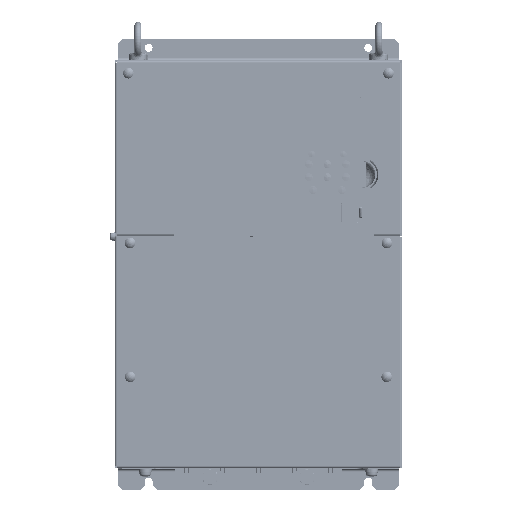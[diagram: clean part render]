
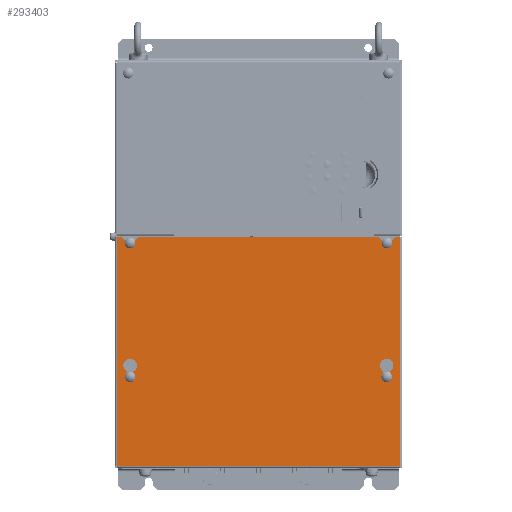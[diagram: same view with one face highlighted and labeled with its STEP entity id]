
A CAD part, top view. The second image highlights one B-rep face of the part: STEP entity #293403.
In plain terms, the highlighted planar face has unit normal (0, 0, 1) as drawn and (0, 1, 0) by its records, which use the part's own axes.
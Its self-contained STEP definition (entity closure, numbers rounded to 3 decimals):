
#292496=CARTESIAN_POINT('',(113.9,0.,-79.5));
#292497=DIRECTION('',(0.,1.,0.));
#292498=DIRECTION('',(-1.,0.,0.));
#292499=AXIS2_PLACEMENT_3D('',#292496,#292497,#292498);
#292501=DIRECTION('',(0.,0.,1.));
#292502=VECTOR('',#292501,4.804);
#292503=CARTESIAN_POINT('',(116.9,0.,-84.304));
#292504=LINE('',#292503,#292502);
#292505=CARTESIAN_POINT('',(113.9,0.,-89.5));
#292506=DIRECTION('',(0.,1.,0.));
#292507=DIRECTION('',(0.5,0.,0.866));
#292508=AXIS2_PLACEMENT_3D('',#292505,#292506,#292507);
#292510=DIRECTION('',(0.,0.,-1.));
#292511=VECTOR('',#292510,4.804);
#292512=CARTESIAN_POINT('',(110.9,0.,-79.5));
#292513=LINE('',#292512,#292511);
#292514=CARTESIAN_POINT('',(-113.9,0.,-79.5));
#292515=DIRECTION('',(0.,1.,0.));
#292516=DIRECTION('',(-1.,0.,0.));
#292517=AXIS2_PLACEMENT_3D('',#292514,#292515,#292516);
#292519=DIRECTION('',(0.,0.,1.));
#292520=VECTOR('',#292519,4.804);
#292521=CARTESIAN_POINT('',(-110.9,0.,-84.304));
#292522=LINE('',#292521,#292520);
#292523=CARTESIAN_POINT('',(-113.9,0.,-89.5));
#292524=DIRECTION('',(0.,1.,0.));
#292525=DIRECTION('',(0.5,0.,0.866));
#292526=AXIS2_PLACEMENT_3D('',#292523,#292524,#292525);
#292528=DIRECTION('',(0.,0.,-1.));
#292529=VECTOR('',#292528,4.804);
#292530=CARTESIAN_POINT('',(-116.9,0.,-79.5));
#292531=LINE('',#292530,#292529);
#292532=DIRECTION('',(-0.707,0.,-0.707));
#292533=VECTOR('',#292532,5.657);
#292534=CARTESIAN_POINT('',(111.,0.,-199.4));
#292535=LINE('',#292534,#292533);
#292536=DIRECTION('',(0.,0.,1.));
#292537=VECTOR('',#292536,1.1);
#292538=CARTESIAN_POINT('',(111.,0.,-199.4));
#292539=LINE('',#292538,#292537);
#292540=CARTESIAN_POINT('',(114.,0.,-198.3));
#292541=DIRECTION('',(0.,1.,0.));
#292542=DIRECTION('',(-1.,0.,0.));
#292543=AXIS2_PLACEMENT_3D('',#292540,#292541,#292542);
#292545=DIRECTION('',(0.,0.,1.));
#292546=VECTOR('',#292545,1.1);
#292547=CARTESIAN_POINT('',(117.,0.,-199.4));
#292548=LINE('',#292547,#292546);
#292549=DIRECTION('',(-0.707,0.,0.707));
#292550=VECTOR('',#292549,5.657);
#292551=CARTESIAN_POINT('',(121.,0.,-203.4));
#292552=LINE('',#292551,#292550);
#292553=DIRECTION('',(-1.,0.,0.));
#292554=VECTOR('',#292553,4.5);
#292555=CARTESIAN_POINT('',(125.5,0.,-203.4));
#292556=LINE('',#292555,#292554);
#292557=DIRECTION('',(-1.,0.,0.));
#292558=VECTOR('',#292557,4.5);
#292559=CARTESIAN_POINT('',(-121.,0.,-203.4));
#292560=LINE('',#292559,#292558);
#292561=DIRECTION('',(-0.707,0.,-0.707));
#292562=VECTOR('',#292561,5.657);
#292563=CARTESIAN_POINT('',(-117.,0.,-199.4));
#292564=LINE('',#292563,#292562);
#292565=DIRECTION('',(0.,0.,1.));
#292566=VECTOR('',#292565,1.1);
#292567=CARTESIAN_POINT('',(-117.,0.,-199.4));
#292568=LINE('',#292567,#292566);
#292569=CARTESIAN_POINT('',(-114.,0.,-198.3));
#292570=DIRECTION('',(0.,1.,0.));
#292571=DIRECTION('',(-1.,0.,0.));
#292572=AXIS2_PLACEMENT_3D('',#292569,#292570,#292571);
#292574=DIRECTION('',(0.,0.,1.));
#292575=VECTOR('',#292574,1.1);
#292576=CARTESIAN_POINT('',(-111.,0.,-199.4));
#292577=LINE('',#292576,#292575);
#292578=DIRECTION('',(-0.707,0.,0.707));
#292579=VECTOR('',#292578,5.657);
#292580=CARTESIAN_POINT('',(-107.,0.,-203.4));
#292581=LINE('',#292580,#292579);
#292582=DIRECTION('',(-1.,0.,0.));
#292583=VECTOR('',#292582,214.);
#292584=CARTESIAN_POINT('',(107.,0.,-203.4));
#292585=LINE('',#292584,#292583);
#293025=DIRECTION('',(0.,0.,1.));
#293026=VECTOR('',#293025,202.9);
#293027=CARTESIAN_POINT('',(-125.5,0.,-203.4));
#293028=LINE('',#293027,#293026);
#293076=DIRECTION('',(1.,0.,0.));
#293077=VECTOR('',#293076,251.);
#293078=CARTESIAN_POINT('',(-125.5,0.,-0.5));
#293079=LINE('',#293078,#293077);
#293118=DIRECTION('',(0.,0.,-1.));
#293119=VECTOR('',#293118,202.9);
#293120=CARTESIAN_POINT('',(125.5,0.,-0.5));
#293121=LINE('',#293120,#293119);
#293172=CARTESIAN_POINT('',(110.9,0.,-79.5));
#293173=CARTESIAN_POINT('',(116.9,0.,-79.5));
#293174=VERTEX_POINT('',#293172);
#293175=VERTEX_POINT('',#293173);
#293176=CARTESIAN_POINT('',(110.9,0.,-84.304));
#293177=VERTEX_POINT('',#293176);
#293178=CARTESIAN_POINT('',(116.9,0.,-84.304));
#293179=VERTEX_POINT('',#293178);
#293180=CARTESIAN_POINT('',(-116.9,0.,-79.5));
#293181=CARTESIAN_POINT('',(-110.9,0.,-79.5));
#293182=VERTEX_POINT('',#293180);
#293183=VERTEX_POINT('',#293181);
#293184=CARTESIAN_POINT('',(-116.9,0.,-84.304));
#293185=VERTEX_POINT('',#293184);
#293186=CARTESIAN_POINT('',(-110.9,0.,-84.304));
#293187=VERTEX_POINT('',#293186);
#293204=CARTESIAN_POINT('',(111.,0.,-198.3));
#293205=CARTESIAN_POINT('',(117.,0.,-198.3));
#293206=VERTEX_POINT('',#293204);
#293207=VERTEX_POINT('',#293205);
#293208=CARTESIAN_POINT('',(-117.,0.,-198.3));
#293209=CARTESIAN_POINT('',(-111.,0.,-198.3));
#293210=VERTEX_POINT('',#293208);
#293211=VERTEX_POINT('',#293209);
#293220=CARTESIAN_POINT('',(111.,0.,-199.4));
#293221=CARTESIAN_POINT('',(107.,0.,-203.4));
#293222=VERTEX_POINT('',#293220);
#293223=VERTEX_POINT('',#293221);
#293228=CARTESIAN_POINT('',(121.,0.,-203.4));
#293229=CARTESIAN_POINT('',(117.,0.,-199.4));
#293230=VERTEX_POINT('',#293228);
#293231=VERTEX_POINT('',#293229);
#293236=CARTESIAN_POINT('',(-107.,0.,-203.4));
#293237=CARTESIAN_POINT('',(-111.,0.,-199.4));
#293238=VERTEX_POINT('',#293236);
#293239=VERTEX_POINT('',#293237);
#293244=CARTESIAN_POINT('',(-117.,0.,-199.4));
#293245=CARTESIAN_POINT('',(-121.,0.,-203.4));
#293246=VERTEX_POINT('',#293244);
#293247=VERTEX_POINT('',#293245);
#293252=CARTESIAN_POINT('',(125.5,0.,-203.4));
#293253=VERTEX_POINT('',#293252);
#293254=CARTESIAN_POINT('',(-125.5,0.,-203.4));
#293255=VERTEX_POINT('',#293254);
#293274=CARTESIAN_POINT('',(125.5,0.,-0.5));
#293275=VERTEX_POINT('',#293274);
#293290=CARTESIAN_POINT('',(-125.5,0.,-0.5));
#293291=VERTEX_POINT('',#293290);
#293344=CARTESIAN_POINT('',(0.,0.,0.));
#293345=DIRECTION('',(0.,1.,0.));
#293346=DIRECTION('',(1.,0.,0.));
#293347=AXIS2_PLACEMENT_3D('',#293344,#293345,#293346);
#293348=PLANE('',#293347);
#293350=ORIENTED_EDGE('',*,*,#293349,.F.);
#293352=ORIENTED_EDGE('',*,*,#293351,.T.);
#293354=ORIENTED_EDGE('',*,*,#293353,.T.);
#293356=ORIENTED_EDGE('',*,*,#293355,.F.);
#293358=ORIENTED_EDGE('',*,*,#293357,.F.);
#293360=ORIENTED_EDGE('',*,*,#293359,.F.);
#293362=ORIENTED_EDGE('',*,*,#293361,.F.);
#293364=ORIENTED_EDGE('',*,*,#293363,.F.);
#293366=ORIENTED_EDGE('',*,*,#293365,.F.);
#293368=ORIENTED_EDGE('',*,*,#293367,.F.);
#293370=ORIENTED_EDGE('',*,*,#293369,.F.);
#293372=ORIENTED_EDGE('',*,*,#293371,.T.);
#293374=ORIENTED_EDGE('',*,*,#293373,.T.);
#293376=ORIENTED_EDGE('',*,*,#293375,.F.);
#293378=ORIENTED_EDGE('',*,*,#293377,.F.);
#293380=ORIENTED_EDGE('',*,*,#293379,.F.);
#293381=EDGE_LOOP('',(#293350,#293352,#293354,#293356,#293358,#293360,#293362,
#293364,#293366,#293368,#293370,#293372,#293374,#293376,#293378,#293380));
#293382=FACE_OUTER_BOUND('',#293381,.F.);
#293384=ORIENTED_EDGE('',*,*,#293383,.T.);
#293386=ORIENTED_EDGE('',*,*,#293385,.F.);
#293388=ORIENTED_EDGE('',*,*,#293387,.T.);
#293390=ORIENTED_EDGE('',*,*,#293389,.F.);
#293391=EDGE_LOOP('',(#293384,#293386,#293388,#293390));
#293392=FACE_BOUND('',#293391,.F.);
#293394=ORIENTED_EDGE('',*,*,#293393,.T.);
#293396=ORIENTED_EDGE('',*,*,#293395,.F.);
#293398=ORIENTED_EDGE('',*,*,#293397,.T.);
#293400=ORIENTED_EDGE('',*,*,#293399,.F.);
#293401=EDGE_LOOP('',(#293394,#293396,#293398,#293400));
#293402=FACE_BOUND('',#293401,.F.);
#293403=ADVANCED_FACE('',(#293382,#293392,#293402),#293348,.T.);
#292500=CIRCLE('',#292499,3.);
#292509=CIRCLE('',#292508,6.);
#292518=CIRCLE('',#292517,3.);
#292527=CIRCLE('',#292526,6.);
#292544=CIRCLE('',#292543,3.);
#292573=CIRCLE('',#292572,3.);
#293349=EDGE_CURVE('',#293222,#293223,#292535,.T.);
#293351=EDGE_CURVE('',#293222,#293206,#292539,.T.);
#293353=EDGE_CURVE('',#293206,#293207,#292544,.T.);
#293355=EDGE_CURVE('',#293231,#293207,#292548,.T.);
#293357=EDGE_CURVE('',#293230,#293231,#292552,.T.);
#293359=EDGE_CURVE('',#293253,#293230,#292556,.T.);
#293361=EDGE_CURVE('',#293275,#293253,#293121,.T.);
#293363=EDGE_CURVE('',#293291,#293275,#293079,.T.);
#293365=EDGE_CURVE('',#293255,#293291,#293028,.T.);
#293367=EDGE_CURVE('',#293247,#293255,#292560,.T.);
#293369=EDGE_CURVE('',#293246,#293247,#292564,.T.);
#293371=EDGE_CURVE('',#293246,#293210,#292568,.T.);
#293373=EDGE_CURVE('',#293210,#293211,#292573,.T.);
#293375=EDGE_CURVE('',#293239,#293211,#292577,.T.);
#293377=EDGE_CURVE('',#293238,#293239,#292581,.T.);
#293379=EDGE_CURVE('',#293223,#293238,#292585,.T.);
#293383=EDGE_CURVE('',#293174,#293175,#292500,.T.);
#293385=EDGE_CURVE('',#293179,#293175,#292504,.T.);
#293387=EDGE_CURVE('',#293179,#293177,#292509,.T.);
#293389=EDGE_CURVE('',#293174,#293177,#292513,.T.);
#293393=EDGE_CURVE('',#293182,#293183,#292518,.T.);
#293395=EDGE_CURVE('',#293187,#293183,#292522,.T.);
#293397=EDGE_CURVE('',#293187,#293185,#292527,.T.);
#293399=EDGE_CURVE('',#293182,#293185,#292531,.T.);
